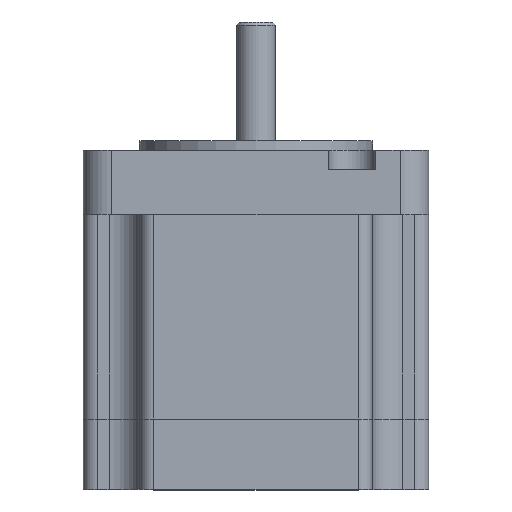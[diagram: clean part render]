
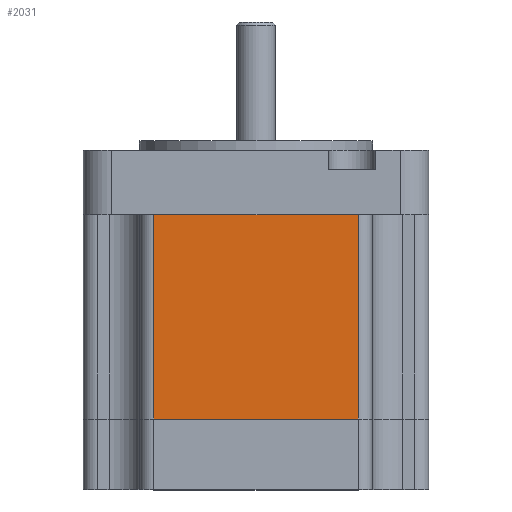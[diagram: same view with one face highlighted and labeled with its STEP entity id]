
A CAD part, top view. The second image highlights one B-rep face of the part: STEP entity #2031.
In plain terms, the highlighted planar face has unit normal (0, 0, 1).
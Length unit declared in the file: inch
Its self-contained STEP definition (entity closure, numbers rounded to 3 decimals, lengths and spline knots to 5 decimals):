
#94=LINE('',#3098,#276);
#95=LINE('',#3101,#277);
#96=LINE('',#3103,#278);
#97=LINE('',#3104,#279);
#276=VECTOR('',#2476,1.31496);
#277=VECTOR('',#2479,1.31496);
#278=VECTOR('',#2480,1.31496);
#279=VECTOR('',#2481,1.31496);
#483=FACE_OUTER_BOUND('',#588,.T.);
#588=EDGE_LOOP('',(#1395,#1396,#1397,#1398));
#857=VERTEX_POINT('',#3094);
#858=VERTEX_POINT('',#3096);
#859=VERTEX_POINT('',#3100);
#860=VERTEX_POINT('',#3102);
#1076=EDGE_CURVE('',#858,#857,#94,.T.);
#1077=EDGE_CURVE('',#857,#859,#95,.T.);
#1078=EDGE_CURVE('',#860,#858,#96,.T.);
#1079=EDGE_CURVE('',#860,#859,#97,.T.);
#1395=ORIENTED_EDGE('',*,*,#1077,.F.);
#1396=ORIENTED_EDGE('',*,*,#1076,.F.);
#1397=ORIENTED_EDGE('',*,*,#1078,.F.);
#1398=ORIENTED_EDGE('',*,*,#1079,.T.);
#1867=PLANE('',#2184);
#2031=ADVANCED_FACE('',(#483),#1867,.F.);
#2184=AXIS2_PLACEMENT_3D('',#3099,#2477,#2478);
#2476=DIRECTION('',(0.,-1.,0.));
#2477=DIRECTION('center_axis',(0.,0.,-1.));
#2478=DIRECTION('ref_axis',(-1.,0.,0.));
#2479=DIRECTION('',(-1.,0.,0.));
#2480=DIRECTION('',(1.,0.,0.));
#2481=DIRECTION('',(0.,-1.,0.));
#3094=CARTESIAN_POINT('',(-1.06727,-0.34549,1.48476));
#3096=CARTESIAN_POINT('',(-1.06727,0.96947,1.48476));
#3098=CARTESIAN_POINT('',(-1.06727,0.96947,1.48476));
#3099=CARTESIAN_POINT('Origin',(-2.38223,0.97537,1.48476));
#3100=CARTESIAN_POINT('',(-2.38223,-0.34549,1.48476));
#3101=CARTESIAN_POINT('',(-1.06727,-0.34549,1.48476));
#3102=CARTESIAN_POINT('',(-2.38223,0.96947,1.48476));
#3103=CARTESIAN_POINT('',(-2.38223,0.96947,1.48476));
#3104=CARTESIAN_POINT('',(-2.38223,0.96947,1.48476));
